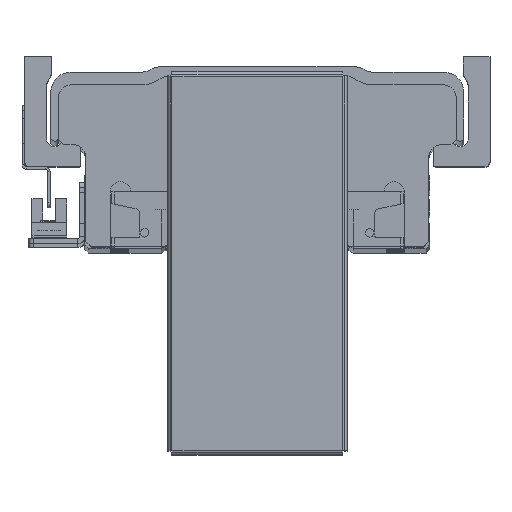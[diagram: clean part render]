
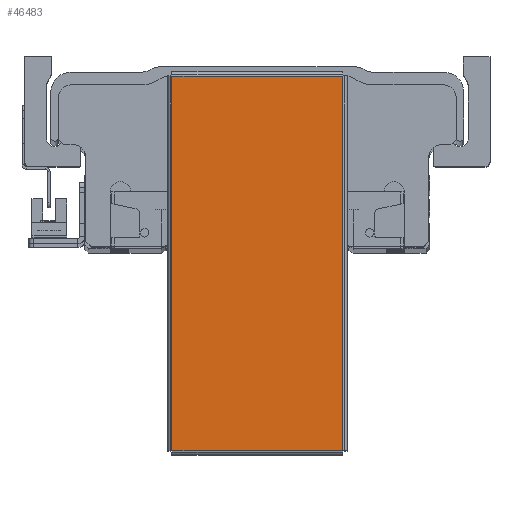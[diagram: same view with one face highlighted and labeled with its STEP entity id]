
A CAD part, top view. The second image highlights one B-rep face of the part: STEP entity #46483.
In plain terms, the highlighted planar face has unit normal (0, 0, 1) as drawn and (0, -1, 0) by its records, which use the part's own axes.
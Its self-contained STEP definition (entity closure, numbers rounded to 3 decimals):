
#9381 = DIRECTION ( 'NONE',  ( 0., 0., -1. ) ) ;
#9392 = CARTESIAN_POINT ( 'NONE',  ( -73.263, -1., 33.393 ) ) ;
#9548 = CARTESIAN_POINT ( 'NONE',  ( -73.293, -1., -33.363 ) ) ;
#9551 = DIRECTION ( 'NONE',  ( 1., 0., 0. ) ) ;
#11295 = CARTESIAN_POINT ( 'NONE',  ( 73.293, -1., 33.363 ) ) ;
#11317 = DIRECTION ( 'NONE',  ( -1., 0., 0. ) ) ;
#12088 = CARTESIAN_POINT ( 'NONE',  ( 73.263, -1., -33.393 ) ) ;
#12092 = DIRECTION ( 'NONE',  ( 0., 0., 1. ) ) ;
#12734 = EDGE_CURVE ( 'NONE', #51708, #51685, #46108, .T. ) ;
#12796 = EDGE_CURVE ( 'NONE', #51685, #51662, #44702, .T. ) ;
#12839 = EDGE_CURVE ( 'NONE', #51662, #51582, #44814, .T. ) ;
#12843 = EDGE_CURVE ( 'NONE', #51582, #51708, #44838, .T. ) ;
#22867 = CARTESIAN_POINT ( 'NONE',  ( 0., -1., 0. ) ) ;
#22868 = DIRECTION ( 'NONE',  ( 0., 0., 1. ) ) ;
#22896 = PLANE ( 'NONE',  #54318 ) ;
#22897 = DIRECTION ( 'NONE',  ( 0., 1., 0. ) ) ;
#31936 = CARTESIAN_POINT ( 'NONE',  ( 73.263, -1., 33.363 ) ) ;
#32092 = CARTESIAN_POINT ( 'NONE',  ( 73.263, -1., -33.363 ) ) ;
#32125 = CARTESIAN_POINT ( 'NONE',  ( -73.263, -1., 33.363 ) ) ;
#32225 = CARTESIAN_POINT ( 'NONE',  ( -73.263, -1., -33.363 ) ) ;
#39570 = ORIENTED_EDGE ( 'NONE', *, *, #12796, .T. ) ;
#39592 = ORIENTED_EDGE ( 'NONE', *, *, #12839, .T. ) ;
#39612 = ORIENTED_EDGE ( 'NONE', *, *, #12734, .T. ) ;
#39628 = ORIENTED_EDGE ( 'NONE', *, *, #12843, .T. ) ;
#41296 = FACE_OUTER_BOUND ( 'NONE', #54967, .T. ) ;
#44702 = LINE ( 'NONE', #9548, #44719 ) ;
#44719 = VECTOR ( 'NONE', #9551, 1000. ) ;
#44788 = VECTOR ( 'NONE', #11317, 1000. ) ;
#44814 = LINE ( 'NONE', #12088, #44835 ) ;
#44835 = VECTOR ( 'NONE', #12092, 1000. ) ;
#44838 = LINE ( 'NONE', #11295, #44788 ) ;
#46108 = LINE ( 'NONE', #9392, #46154 ) ;
#46154 = VECTOR ( 'NONE', #9381, 1000. ) ;
#46483 = ADVANCED_FACE ( 'NONE', ( #41296 ), #22896, .F. ) ;
#51582 = VERTEX_POINT ( 'NONE', #31936 ) ;
#51662 = VERTEX_POINT ( 'NONE', #32092 ) ;
#51685 = VERTEX_POINT ( 'NONE', #32225 ) ;
#51708 = VERTEX_POINT ( 'NONE', #32125 ) ;
#54318 = AXIS2_PLACEMENT_3D ( 'NONE', #22867, #22897, #22868 ) ;
#54967 = EDGE_LOOP ( 'NONE', ( #39628, #39612, #39570, #39592 ) ) ;
